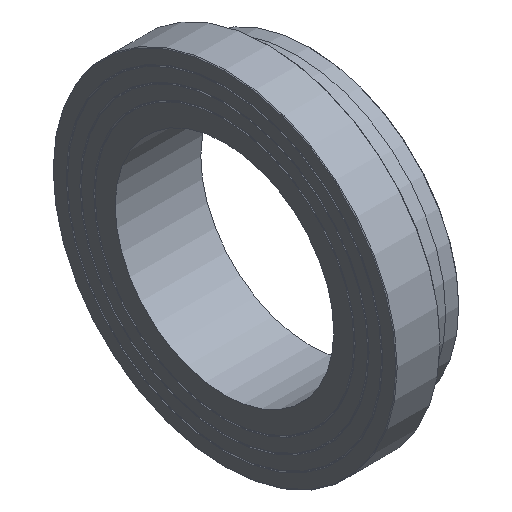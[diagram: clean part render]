
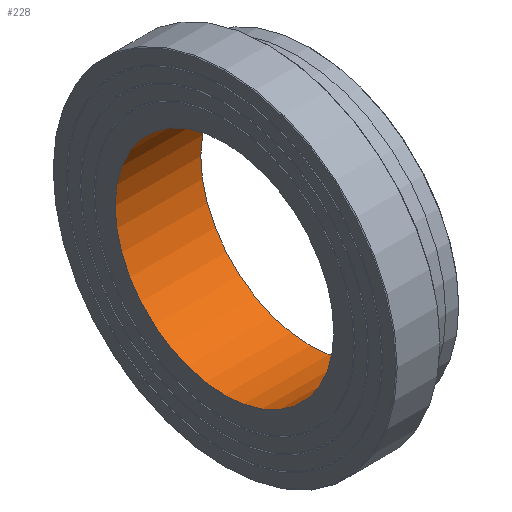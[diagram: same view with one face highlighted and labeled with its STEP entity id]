
A CAD part, isometric view. The second image highlights one B-rep face of the part: STEP entity #228.
In plain terms, the highlighted cylindrical face has radius 229.8 mm (diameter 459.6 mm), a full revolution.
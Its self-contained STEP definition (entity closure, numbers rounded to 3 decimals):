
#33=CYLINDRICAL_SURFACE('',#274,229.8);
#50=ORIENTED_EDGE('',*,*,#79,.F.);
#51=ORIENTED_EDGE('',*,*,#76,.T.);
#76=EDGE_CURVE('',#96,#96,#116,.T.);
#79=EDGE_CURVE('',#99,#99,#119,.T.);
#96=VERTEX_POINT('',#383);
#99=VERTEX_POINT('',#390);
#116=CIRCLE('',#257,229.8);
#119=CIRCLE('',#261,229.8);
#150=EDGE_LOOP('',(#50));
#151=EDGE_LOOP('',(#51));
#190=FACE_BOUND('',#150,.T.);
#191=FACE_BOUND('',#151,.T.);
#228=ADVANCED_FACE('',(#190,#191),#33,.F.);
#257=AXIS2_PLACEMENT_3D('',#382,#303,#304);
#261=AXIS2_PLACEMENT_3D('',#389,#311,#312);
#274=AXIS2_PLACEMENT_3D('',#410,#337,#338);
#303=DIRECTION('',(-1.,0.,0.));
#304=DIRECTION('',(0.,0.,1.));
#311=DIRECTION('',(-1.,0.,0.));
#312=DIRECTION('',(0.,0.,1.));
#337=DIRECTION('',(-1.,0.,0.));
#338=DIRECTION('',(0.,0.,1.));
#382=CARTESIAN_POINT('',(0.,0.,0.));
#383=CARTESIAN_POINT('',(0.,0.,229.8));
#389=CARTESIAN_POINT('',(180.,0.,0.));
#390=CARTESIAN_POINT('',(180.,0.,229.8));
#410=CARTESIAN_POINT('',(60.,0.,0.));
